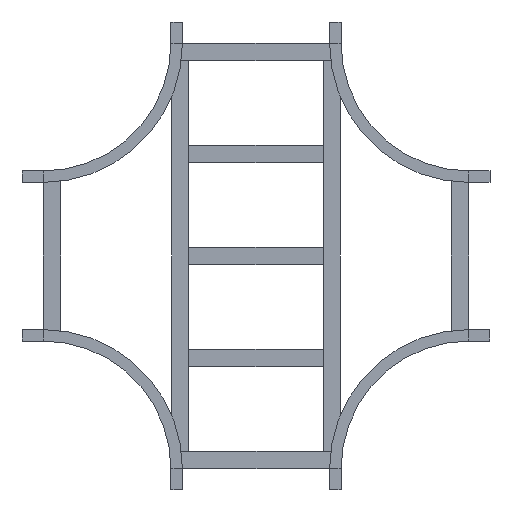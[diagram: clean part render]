
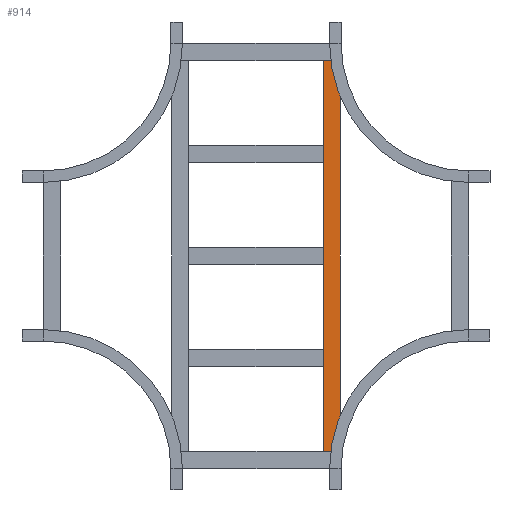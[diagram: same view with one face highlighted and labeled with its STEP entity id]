
A CAD part, front view. The second image highlights one B-rep face of the part: STEP entity #914.
In plain terms, the highlighted planar face has unit normal (0, -1, 0).
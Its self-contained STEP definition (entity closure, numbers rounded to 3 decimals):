
#44 = VERTEX_POINT ( 'NONE', #1049 ) ;
#67 = LINE ( 'NONE', #599, #368 ) ;
#133 = DIRECTION ( 'NONE',  ( 0., 1., 0. ) ) ;
#174 = LINE ( 'NONE', #951, #210 ) ;
#182 = AXIS2_PLACEMENT_3D ( 'NONE', #791, #133, #589 ) ;
#200 = CARTESIAN_POINT ( 'NONE',  ( -459.5, 0., 20.25 ) ) ;
#210 = VECTOR ( 'NONE', #1032, 1000. ) ;
#260 = VERTEX_POINT ( 'NONE', #732 ) ;
#331 = VECTOR ( 'NONE', #667, 1000. ) ;
#364 = EDGE_CURVE ( 'NONE', #44, #470, #804, .T. ) ;
#368 = VECTOR ( 'NONE', #476, 1000. ) ;
#376 = ORIENTED_EDGE ( 'NONE', *, *, #364, .F. ) ;
#470 = VERTEX_POINT ( 'NONE', #982 ) ;
#476 = DIRECTION ( 'NONE',  ( -1., 0., 0. ) ) ;
#560 = EDGE_CURVE ( 'NONE', #260, #984, #880, .T. ) ;
#589 = DIRECTION ( 'NONE',  ( 0., 0., 1. ) ) ;
#599 = CARTESIAN_POINT ( 'NONE',  ( 459.5, 0., 20.25 ) ) ;
#667 = DIRECTION ( 'NONE',  ( 0., 0., -1. ) ) ;
#692 = CARTESIAN_POINT ( 'NONE',  ( 459.5, 0., 20.25 ) ) ;
#732 = CARTESIAN_POINT ( 'NONE',  ( -459.5, 0., 20.25 ) ) ;
#765 = FACE_OUTER_BOUND ( 'NONE', #766, .T. ) ;
#766 = EDGE_LOOP ( 'NONE', ( #1254, #1324, #376, #1352 ) ) ;
#791 = CARTESIAN_POINT ( 'NONE',  ( 459.5, 0., 20.25 ) ) ;
#804 = LINE ( 'NONE', #692, #946 ) ;
#880 = LINE ( 'NONE', #200, #331 ) ;
#914 = ADVANCED_FACE ( 'NONE', ( #765 ), #1194, .F. ) ;
#946 = VECTOR ( 'NONE', #1349, 1000. ) ;
#951 = CARTESIAN_POINT ( 'NONE',  ( 459.5, 0., -20.25 ) ) ;
#982 = CARTESIAN_POINT ( 'NONE',  ( 459.5, 0., -20.25 ) ) ;
#984 = VERTEX_POINT ( 'NONE', #1244 ) ;
#1032 = DIRECTION ( 'NONE',  ( -1., 0., 0. ) ) ;
#1049 = CARTESIAN_POINT ( 'NONE',  ( 459.5, 0., 20.25 ) ) ;
#1098 = EDGE_CURVE ( 'NONE', #470, #984, #174, .T. ) ;
#1163 = EDGE_CURVE ( 'NONE', #44, #260, #67, .T. ) ;
#1194 = PLANE ( 'NONE',  #182 ) ;
#1244 = CARTESIAN_POINT ( 'NONE',  ( -459.5, 0., -20.25 ) ) ;
#1254 = ORIENTED_EDGE ( 'NONE', *, *, #560, .T. ) ;
#1324 = ORIENTED_EDGE ( 'NONE', *, *, #1098, .F. ) ;
#1349 = DIRECTION ( 'NONE',  ( 0., 0., -1. ) ) ;
#1352 = ORIENTED_EDGE ( 'NONE', *, *, #1163, .T. ) ;
